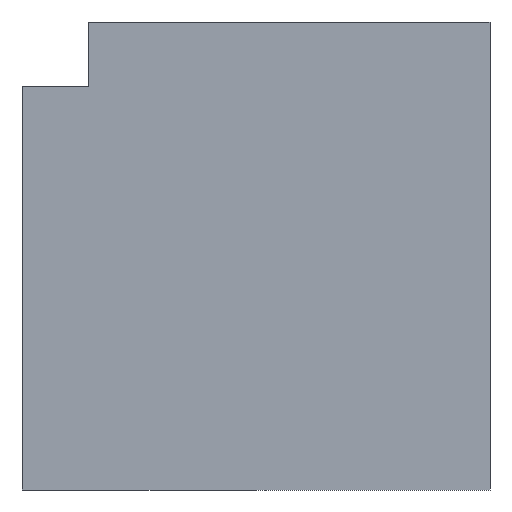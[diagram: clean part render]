
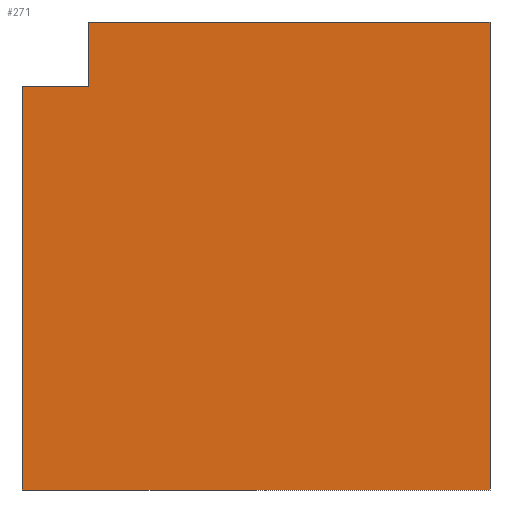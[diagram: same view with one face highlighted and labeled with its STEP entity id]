
A CAD part, left-side view. The second image highlights one B-rep face of the part: STEP entity #271.
In plain terms, the highlighted planar face has unit normal (-1, 0, 0).
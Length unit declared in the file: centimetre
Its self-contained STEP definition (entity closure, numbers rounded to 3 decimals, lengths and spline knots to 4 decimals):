
#6 = CARTESIAN_POINT ( 'NONE',  ( 0., 858.9269, 863.2307 ) ) ;
#30 = DIRECTION ( 'NONE',  ( 0., -1., 0. ) ) ;
#40 = CARTESIAN_POINT ( 'NONE',  ( 0., 1000., 863.2307 ) ) ;
#49 = ORIENTED_EDGE ( 'NONE', *, *, #193, .F. ) ;
#53 = VECTOR ( 'NONE', #312, 100. ) ;
#63 = DIRECTION ( 'NONE',  ( 0., 1., 0. ) ) ;
#68 = VECTOR ( 'NONE', #157, 100. ) ;
#83 = EDGE_CURVE ( 'NONE', #152, #170, #390, .T. ) ;
#84 = ORIENTED_EDGE ( 'NONE', *, *, #168, .T. ) ;
#119 = CARTESIAN_POINT ( 'NONE',  ( 0., 1000., 1000. ) ) ;
#124 = CARTESIAN_POINT ( 'NONE',  ( 0., 858.9269, 1000. ) ) ;
#134 = PLANE ( 'NONE',  #325 ) ;
#142 = VECTOR ( 'NONE', #286, 100. ) ;
#146 = ORIENTED_EDGE ( 'NONE', *, *, #244, .T. ) ;
#152 = VERTEX_POINT ( 'NONE', #124 ) ;
#157 = DIRECTION ( 'NONE',  ( 0., 0., -1. ) ) ;
#168 = EDGE_CURVE ( 'NONE', #356, #412, #299, .T. ) ;
#170 = VERTEX_POINT ( 'NONE', #331 ) ;
#186 = CARTESIAN_POINT ( 'NONE',  ( 0., 858.9269, 863.2307 ) ) ;
#190 = LINE ( 'NONE', #267, #195 ) ;
#193 = EDGE_CURVE ( 'NONE', #170, #382, #190, .T. ) ;
#195 = VECTOR ( 'NONE', #367, 100. ) ;
#202 = EDGE_CURVE ( 'NONE', #412, #424, #433, .T. ) ;
#203 = CARTESIAN_POINT ( 'NONE',  ( 0., 0., 0. ) ) ;
#232 = LINE ( 'NONE', #335, #395 ) ;
#244 = EDGE_CURVE ( 'NONE', #424, #382, #232, .T. ) ;
#245 = DIRECTION ( 'NONE',  ( 0., 0., -1. ) ) ;
#255 = ORIENTED_EDGE ( 'NONE', *, *, #83, .F. ) ;
#257 = ORIENTED_EDGE ( 'NONE', *, *, #319, .F. ) ;
#267 = CARTESIAN_POINT ( 'NONE',  ( 0., 0., 1000. ) ) ;
#271 = ADVANCED_FACE ( 'NONE', ( #434 ), #134, .F. ) ;
#286 = DIRECTION ( 'NONE',  ( 0., -1., 0. ) ) ;
#288 = CARTESIAN_POINT ( 'NONE',  ( 0., 1000., 0. ) ) ;
#299 = LINE ( 'NONE', #186, #388 ) ;
#305 = LINE ( 'NONE', #306, #53 ) ;
#306 = CARTESIAN_POINT ( 'NONE',  ( 0., 858.9269, 863.2307 ) ) ;
#312 = DIRECTION ( 'NONE',  ( 0., 0., 1. ) ) ;
#319 = EDGE_CURVE ( 'NONE', #356, #152, #305, .T. ) ;
#321 = EDGE_LOOP ( 'NONE', ( #257, #84, #386, #146, #49, #255 ) ) ;
#325 = AXIS2_PLACEMENT_3D ( 'NONE', #392, #407, #245 ) ;
#331 = CARTESIAN_POINT ( 'NONE',  ( 0., 0., 1000. ) ) ;
#335 = CARTESIAN_POINT ( 'NONE',  ( 0., 1000., 0. ) ) ;
#356 = VERTEX_POINT ( 'NONE', #6 ) ;
#363 = CARTESIAN_POINT ( 'NONE',  ( 0., 1000., 1000. ) ) ;
#367 = DIRECTION ( 'NONE',  ( 0., 0., -1. ) ) ;
#382 = VERTEX_POINT ( 'NONE', #203 ) ;
#386 = ORIENTED_EDGE ( 'NONE', *, *, #202, .T. ) ;
#388 = VECTOR ( 'NONE', #63, 100. ) ;
#390 = LINE ( 'NONE', #119, #142 ) ;
#392 = CARTESIAN_POINT ( 'NONE',  ( 0., 1000., 1000. ) ) ;
#395 = VECTOR ( 'NONE', #30, 100. ) ;
#407 = DIRECTION ( 'NONE',  ( 1., 0., 0. ) ) ;
#412 = VERTEX_POINT ( 'NONE', #40 ) ;
#424 = VERTEX_POINT ( 'NONE', #288 ) ;
#433 = LINE ( 'NONE', #363, #68 ) ;
#434 = FACE_OUTER_BOUND ( 'NONE', #321, .T. ) ;
